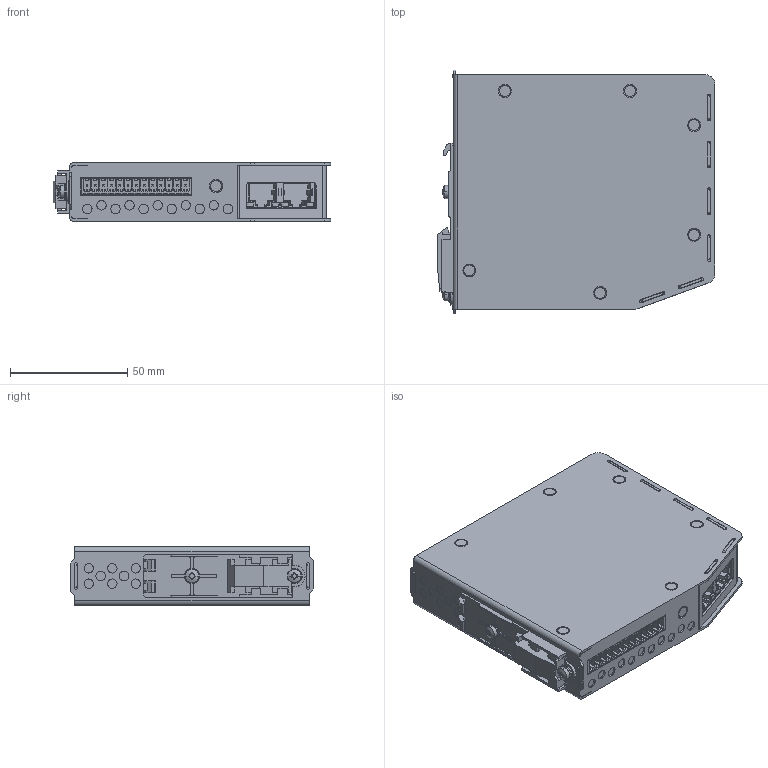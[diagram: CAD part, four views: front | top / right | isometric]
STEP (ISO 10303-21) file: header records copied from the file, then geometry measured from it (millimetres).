
FILE_DESCRIPTION((''),'2;1');
FILE_NAME('1_BM40IE_STEP_SW0001','2018-01-12T',('mellertr'),(''),'CREO PARAMETRIC BY PTC INC, 2017170','CREO PARAMETRIC BY PTC INC, 2017170','');
FILE_SCHEMA(('CONFIG_CONTROL_DESIGN'));
Products named in the file (1): 1_BM40IE_STEP_SW0001
Bounding box: 118.6 x 104 x 25 mm (x, y, z)
Volume: 267388.2 mm3; surface area: 40152.3 mm2
Topology: 1 solids, 2 shells, 2580 faces, 6824 edges, 4386 vertices
Faces by surface type: bspline 2580
Entity records: 104366 total; most frequent: CARTESIAN_POINT 31180, ORIENTED_EDGE 13604, DIRECTION 7734, EDGE_CURVE 6802, VECTOR 5402, LINE 5402, VERTEX_POINT 4386, EDGE_LOOP 2782
